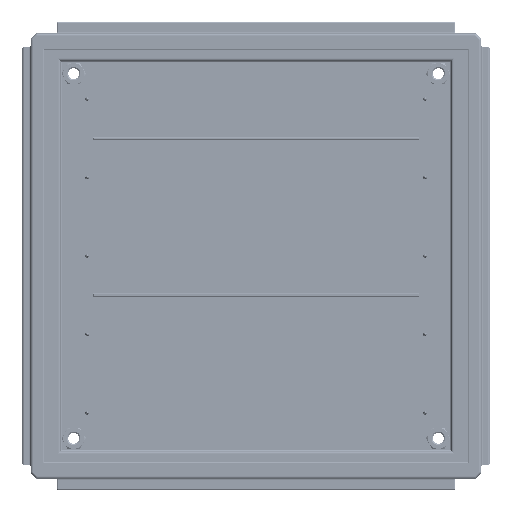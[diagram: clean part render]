
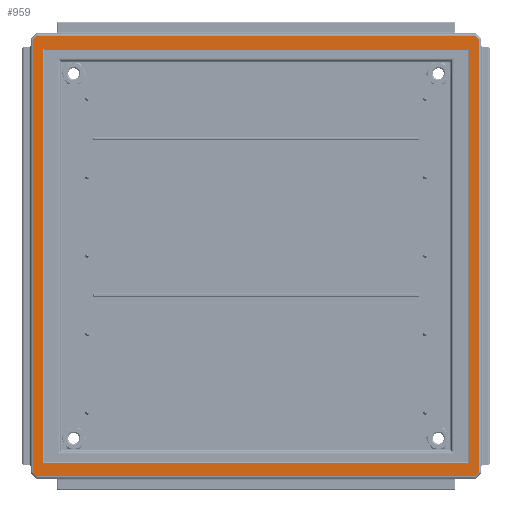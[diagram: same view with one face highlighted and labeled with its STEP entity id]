
A CAD part, front view. The second image highlights one B-rep face of the part: STEP entity #959.
In plain terms, the highlighted planar face has unit normal (0, -1, 0).
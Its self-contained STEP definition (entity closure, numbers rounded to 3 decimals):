
#959=ADVANCED_FACE('',(#29000,#29002),#29004,.T.);
#29000=FACE_BOUND('',#29001,.T.);
#29001=EDGE_LOOP('',(#87753,#87754,#87755,#87756,#87757,#87758,#87759,#87760));
#29002=FACE_BOUND('',#29003,.T.);
#29003=EDGE_LOOP('',(#87761,#87762,#87763,#87764));
#29004=PLANE('',#29005);
#29005=AXIS2_PLACEMENT_3D('',#29006,#29007,#29008);
#29006=CARTESIAN_POINT('',(262.2,0.,-564.9));
#29007=DIRECTION('',(0.,-1.,0.));
#29008=DIRECTION('',(0.,0.,1.));
#87753=ORIENTED_EDGE('',*,*,#122083,.F.);
#87754=ORIENTED_EDGE('',*,*,#122084,.F.);
#87755=ORIENTED_EDGE('',*,*,#122085,.T.);
#87756=ORIENTED_EDGE('',*,*,#122086,.T.);
#87757=ORIENTED_EDGE('',*,*,#122087,.F.);
#87758=ORIENTED_EDGE('',*,*,#122088,.T.);
#87759=ORIENTED_EDGE('',*,*,#122089,.T.);
#87760=ORIENTED_EDGE('',*,*,#122090,.F.);
#87761=ORIENTED_EDGE('',*,*,#122091,.T.);
#87762=ORIENTED_EDGE('',*,*,#122092,.T.);
#87763=ORIENTED_EDGE('',*,*,#122093,.F.);
#87764=ORIENTED_EDGE('',*,*,#122094,.T.);
#122083=EDGE_CURVE('',#140042,#140043,#140044,.T.);
#122084=EDGE_CURVE('',#140045,#140042,#140046,.T.);
#122085=EDGE_CURVE('',#140045,#140047,#140048,.T.);
#122086=EDGE_CURVE('',#140047,#140049,#140050,.T.);
#122087=EDGE_CURVE('',#140051,#140049,#140052,.T.);
#122088=EDGE_CURVE('',#140051,#140053,#140054,.T.);
#122089=EDGE_CURVE('',#140053,#140055,#140056,.T.);
#122090=EDGE_CURVE('',#140043,#140055,#140057,.T.);
#122091=EDGE_CURVE('',#140058,#140059,#140060,.T.);
#122092=EDGE_CURVE('',#140059,#140061,#140062,.T.);
#122093=EDGE_CURVE('',#140063,#140061,#140064,.T.);
#122094=EDGE_CURVE('',#140063,#140058,#140065,.T.);
#140042=VERTEX_POINT('',#171212);
#140043=VERTEX_POINT('',#171213);
#140044=LINE('',#171214,#171215);
#140045=VERTEX_POINT('',#171217);
#140046=LINE('',#171218,#171219);
#140047=VERTEX_POINT('',#171221);
#140048=LINE('',#171222,#171223);
#140049=VERTEX_POINT('',#171225);
#140050=LINE('',#171226,#171227);
#140051=VERTEX_POINT('',#171229);
#140052=LINE('',#171230,#171231);
#140053=VERTEX_POINT('',#171233);
#140054=LINE('',#171234,#171235);
#140055=VERTEX_POINT('',#171237);
#140056=LINE('',#171238,#171239);
#140057=LINE('',#171241,#171242);
#140058=VERTEX_POINT('',#171244);
#140059=VERTEX_POINT('',#171245);
#140060=LINE('',#171246,#171247);
#140061=VERTEX_POINT('',#171249);
#140062=LINE('',#171250,#171251);
#140063=VERTEX_POINT('',#171253);
#140064=LINE('',#171254,#171255);
#140065=LINE('',#171257,#171258);
#171212=CARTESIAN_POINT('',(166.716,0.,-3.1));
#171213=CARTESIAN_POINT('',(171.9,0.,-8.284));
#171214=CARTESIAN_POINT('',(166.716,0.,-3.1));
#171215=VECTOR('',#171216,1.);
#171216=DIRECTION('',(0.707,0.,-0.707));
#171217=CARTESIAN_POINT('',(-391.716,0.,-3.1));
#171218=CARTESIAN_POINT('',(-391.716,0.,-3.1));
#171219=VECTOR('',#171220,1.);
#171220=DIRECTION('',(1.,0.,0.));
#171221=CARTESIAN_POINT('',(-396.9,0.,-8.284));
#171222=CARTESIAN_POINT('',(-391.716,0.,-3.1));
#171223=VECTOR('',#171224,1.);
#171224=DIRECTION('',(-0.707,0.,-0.707));
#171225=CARTESIAN_POINT('',(-396.9,0.,-559.716));
#171226=CARTESIAN_POINT('',(-396.9,0.,-8.284));
#171227=VECTOR('',#171228,1.);
#171228=DIRECTION('',(0.,0.,-1.));
#171229=CARTESIAN_POINT('',(-391.716,0.,-564.9));
#171230=CARTESIAN_POINT('',(-391.716,0.,-564.9));
#171231=VECTOR('',#171232,1.);
#171232=DIRECTION('',(-0.707,0.,0.707));
#171233=CARTESIAN_POINT('',(166.716,0.,-564.9));
#171234=CARTESIAN_POINT('',(-391.716,0.,-564.9));
#171235=VECTOR('',#171236,1.);
#171236=DIRECTION('',(1.,0.,0.));
#171237=CARTESIAN_POINT('',(171.9,0.,-559.716));
#171238=CARTESIAN_POINT('',(166.716,0.,-564.9));
#171239=VECTOR('',#171240,1.);
#171240=DIRECTION('',(0.707,0.,0.707));
#171241=CARTESIAN_POINT('',(171.9,0.,-8.284));
#171242=VECTOR('',#171243,1.);
#171243=DIRECTION('',(0.,0.,-1.));
#171244=CARTESIAN_POINT('',(-383.591,0.,-19.899));
#171245=CARTESIAN_POINT('',(158.591,0.,-19.899));
#171246=CARTESIAN_POINT('',(-383.591,0.,-19.899));
#171247=VECTOR('',#171248,1.);
#171248=DIRECTION('',(1.,0.,0.));
#171249=CARTESIAN_POINT('',(158.591,0.,-548.101));
#171250=CARTESIAN_POINT('',(158.591,0.,-19.899));
#171251=VECTOR('',#171252,1.);
#171252=DIRECTION('',(0.,0.,-1.));
#171253=CARTESIAN_POINT('',(-383.591,0.,-548.101));
#171254=CARTESIAN_POINT('',(-383.591,0.,-548.101));
#171255=VECTOR('',#171256,1.);
#171256=DIRECTION('',(1.,0.,0.));
#171257=CARTESIAN_POINT('',(-383.591,0.,-548.101));
#171258=VECTOR('',#171259,1.);
#171259=DIRECTION('',(0.,0.,1.));
